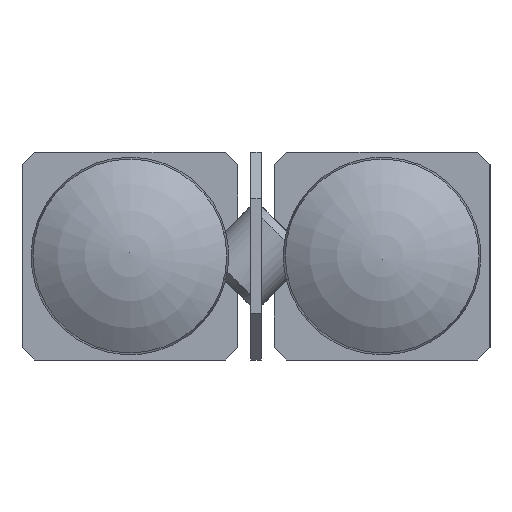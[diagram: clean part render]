
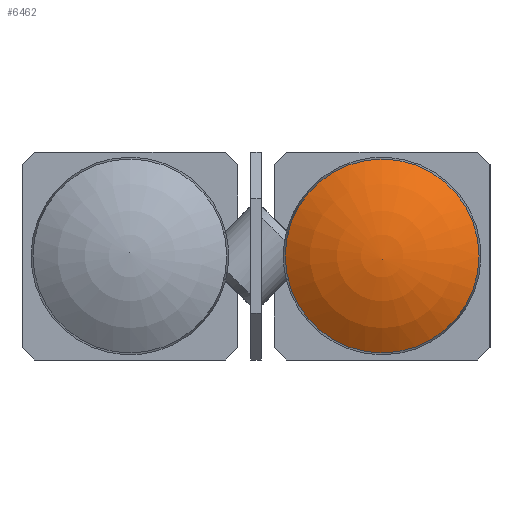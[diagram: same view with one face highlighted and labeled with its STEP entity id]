
A CAD part, left-side view. The second image highlights one B-rep face of the part: STEP entity #6462.
In plain terms, the highlighted toroidal (fillet/blend) face has major radius 0.059 mm and minor radius 6.5 mm.
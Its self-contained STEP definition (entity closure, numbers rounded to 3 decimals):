
#132=VERTEX_LOOP('',#3131);
#136=DEGENERATE_TOROIDAL_SURFACE('',#6927,0.059,6.5,
 .F.);
#317=CIRCLE('',#6926,3.728);
#626=ORIENTED_EDGE('',*,*,#2278,.F.);
#2278=EDGE_CURVE('',#3130,#3130,#317,.T.);
#3130=VERTEX_POINT('',#9632);
#3131=VERTEX_POINT('',#9634);
#4958=EDGE_LOOP('',(#626));
#5610=FACE_BOUND('',#132,.T.);
#5611=FACE_BOUND('',#4958,.T.);
#6462=ADVANCED_FACE('',(#5610,#5611),#136,.F.);
#6926=AXIS2_PLACEMENT_3D('',#9631,#7733,#7734);
#6927=AXIS2_PLACEMENT_3D('',#9633,#7735,#7736);
#7733=DIRECTION('',(1.,0.,0.));
#7734=DIRECTION('',(0.,0.,-1.));
#7735=DIRECTION('',(1.,0.,0.));
#7736=DIRECTION('',(0.,0.,-1.));
#9631=CARTESIAN_POINT('',(1.217,-4.85,0.));
#9632=CARTESIAN_POINT('',(1.217,-4.85,-3.728));
#9633=CARTESIAN_POINT('',(6.5,-4.85,0.));
#9634=CARTESIAN_POINT('',(0.,-4.85,0.));
